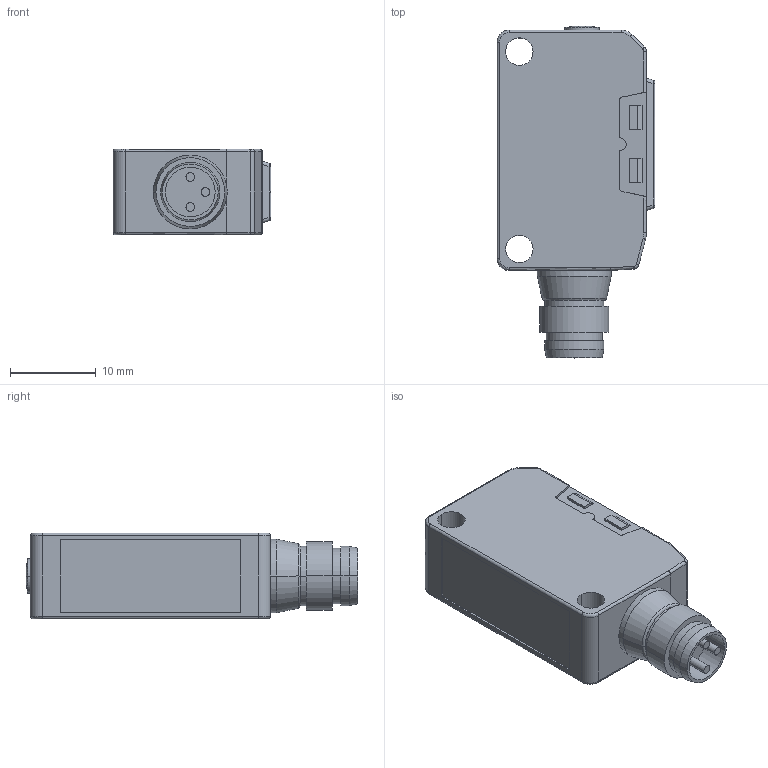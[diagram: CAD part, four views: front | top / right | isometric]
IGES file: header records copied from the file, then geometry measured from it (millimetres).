
Start section: Elysium IGES Interface
Global section: file name: 70HH:\Documents and Settings\y-shirakawa\デスクトップ\BGS-S_Connector.igs; native system: CoCreate Modeling 16.50A  01-Dec-2009; preprocessor: CoCreate IGES_3D V2.2; author: Unknown; organization: Unknown; date: 20101202.111443; units: millimetre
Bounding box: 18.4 x 38.69 x 10 mm (x, y, z)
Volume: 5082.8 mm3; surface area: 2398.5 mm2
Topology: 1 solids, 1 shells, 157 faces, 369 edges, 230 vertices
Faces by surface type: bspline 157
